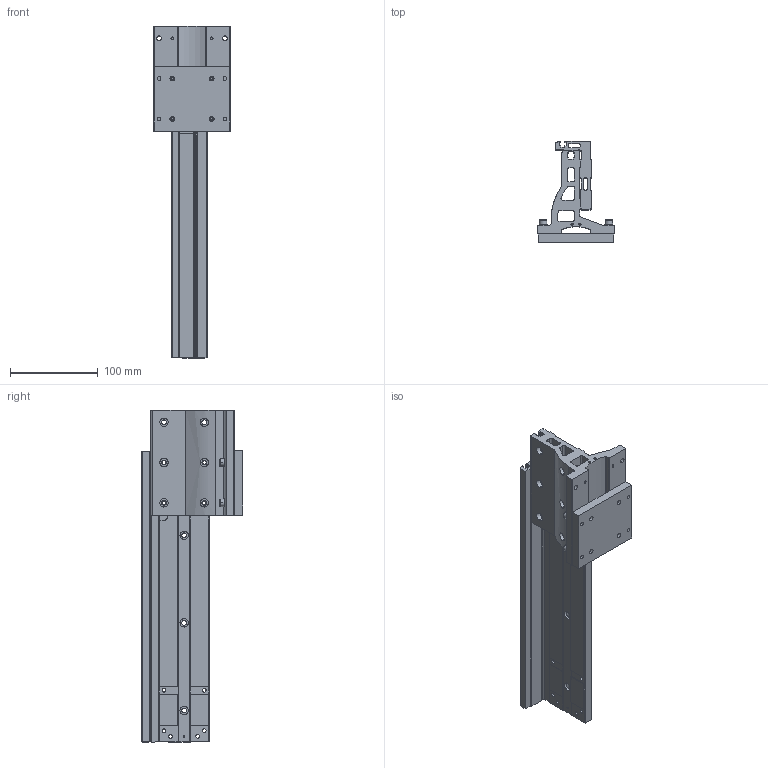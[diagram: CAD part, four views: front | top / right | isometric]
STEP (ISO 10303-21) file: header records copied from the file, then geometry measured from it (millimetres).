
FILE_DESCRIPTION (( 'STEP AP203' ), '1' );
FILE_NAME ('X-Y_PAB-S6S4L015_D1035.step', '2023-09-19T10:04:07', ( '' ), ( '' ), 'SwSTEP 2.0', 'SolidWorks 2020', '' );
FILE_SCHEMA (( 'CONFIG_CONTROL_DESIGN' ));
Length unit declared in the file: millimetre
Products named in the file (1): X-Y_PAB-S6S4L015_D1035
Bounding box: 87 x 116 x 379 mm (x, y, z)
Volume: 671425.4 mm3; surface area: 195437.4 mm2
Topology: 1 solids, 1 shells, 422 faces, 1098 edges, 718 vertices
Faces by surface type: cylinder 202, plane 202, cone 10, torus 8
Entity records: 13367 total; most frequent: CARTESIAN_POINT 2439, DIRECTION 2360, ORIENTED_EDGE 2176, EDGE_CURVE 1088, AXIS2_PLACEMENT_3D 855, VERTEX_POINT 718, LINE 650, VECTOR 650
